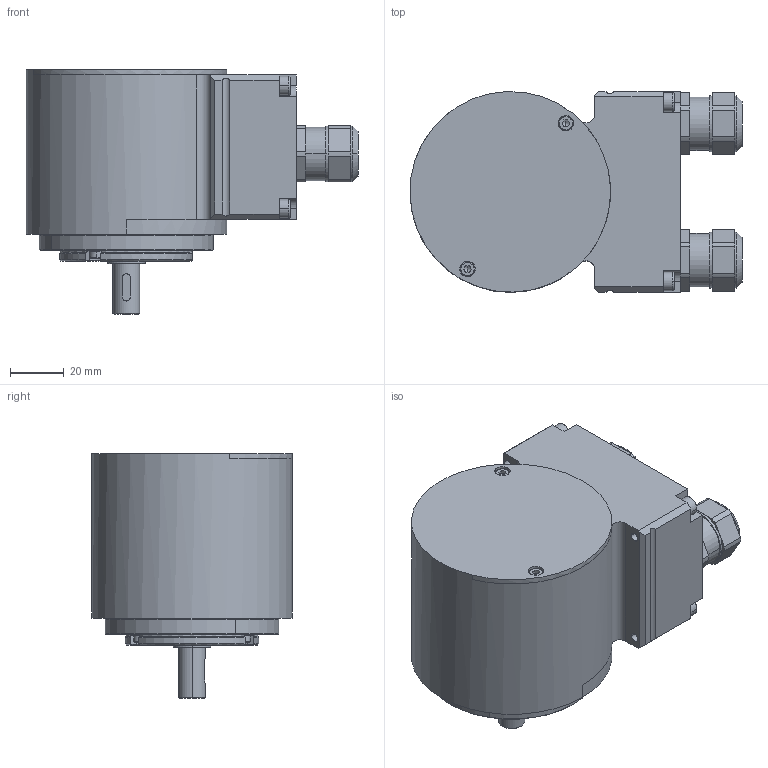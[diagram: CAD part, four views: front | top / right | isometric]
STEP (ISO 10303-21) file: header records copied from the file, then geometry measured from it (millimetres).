
FILE_DESCRIPTION((''),'2;1');
FILE_NAME('2007893','2010-10-04T',('merz'),(''),'PRO/ENGINEER BY PARAMETRIC TECHNOLOGY CORPORATION, 2009380','PRO/ENGINEER BY PARAMETRIC TECHNOLOGY CORPORATION, 2009380','');
FILE_SCHEMA(('AUTOMOTIVE_DESIGN_CC2 { 1 2 10303 214 -1 1 5 2 }'));
Length unit declared in the file: millimetre
Products named in the file (1): 2007893
Bounding box: 124.1 x 75 x 91.5 mm (x, y, z)
Volume: 177188.3 mm3; surface area: 87868.2 mm2
Topology: 3 solids, 6 shells, 764 faces, 1955 edges, 1253 vertices
Faces by surface type: cylinder 277, plane 268, cone 166, torus 53
Entity records: 29924 total; most frequent: CARTESIAN_POINT 5523, DIRECTION 3946, ORIENTED_EDGE 3840, PRESENTATION_STYLE_ASSIGNMENT 1925, STYLED_ITEM 1925, CURVE_STYLE 1922, EDGE_CURVE 1920, AXIS2_PLACEMENT_3D 1545
